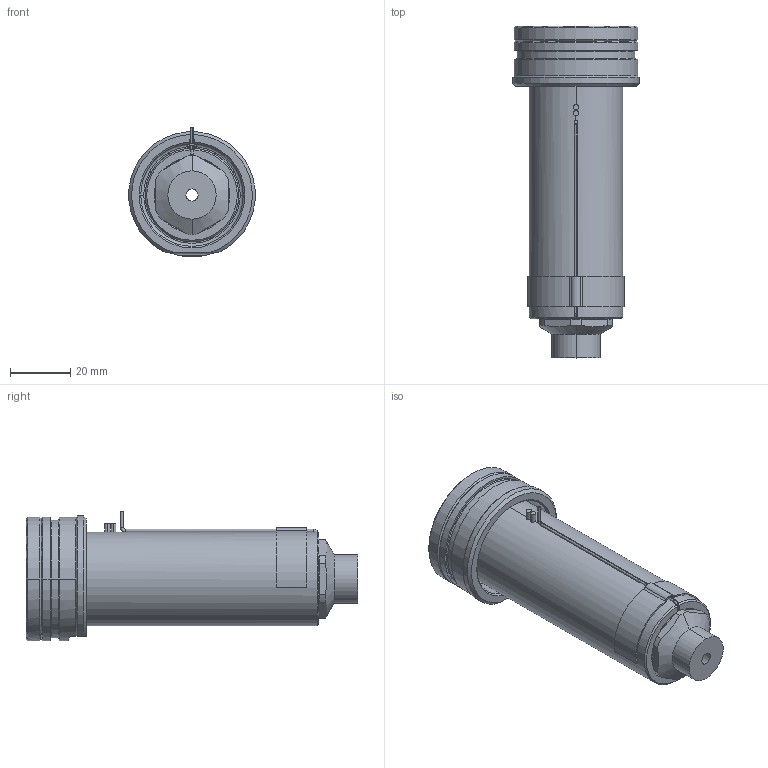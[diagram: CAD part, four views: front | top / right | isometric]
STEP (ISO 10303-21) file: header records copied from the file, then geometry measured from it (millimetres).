
FILE_DESCRIPTION((''),'2;1');
FILE_NAME('EO12_VG-FB_STD_090_SW','2024-02-19T13:37:31',('sundharh'),(''),'CREO PARAMETRIC BY PTC INC, 2023154','CREO PARAMETRIC BY PTC INC, 2023154','');
FILE_SCHEMA(('CONFIG_CONTROL_DESIGN'));
Length unit declared in the file: millimetre
Products named in the file (1): EO12_VG-FB_STD_090_SW
Bounding box: 41.85 x 110 x 43 mm (x, y, z)
Volume: 74193.3 mm3; surface area: 22571.8 mm2
Topology: 2 solids, 3 shells, 210 faces, 519 edges, 314 vertices
Faces by surface type: cylinder 73, plane 48, cone 41, torus 37, bspline 9, sphere 2
Entity records: 7064 total; most frequent: CARTESIAN_POINT 1963, DIRECTION 1142, ORIENTED_EDGE 1034, EDGE_CURVE 517, AXIS2_PLACEMENT_3D 483, VERTEX_POINT 314, CIRCLE 282, EDGE_LOOP 227
